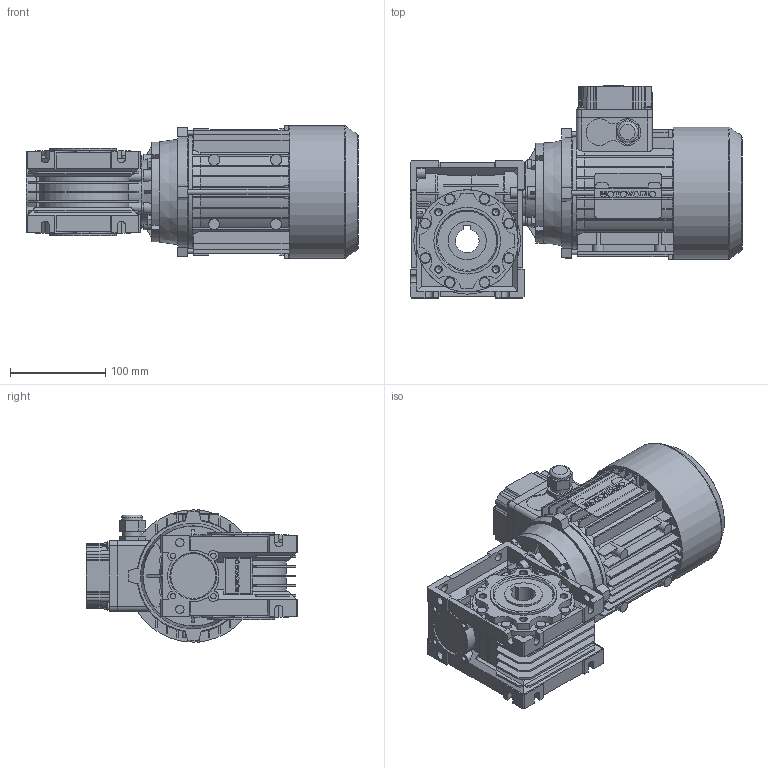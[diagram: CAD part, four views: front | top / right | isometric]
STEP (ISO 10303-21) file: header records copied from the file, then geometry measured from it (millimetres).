
FILE_DESCRIPTION(/* description */ ('STEP AP203'),/* implementation_level */ '2;1');
FILE_NAME(/* name */ 'NMRV0501332511100300T071-1(-----IC411NONO------STD)',/* time_stamp */ '2023-05-08T09:09:01+02:00',/* author */ ('License CC BY-ND 4.0'),/* organization */ ('CADENAS'),/* preprocessor_version */ 'ST-DEVELOPER v19.3',/* originating_system */ 'PARTsolutions',/* authorisation */ ' ');
FILE_SCHEMA (('CONFIG_CONTROL_DESIGN'));
Length unit declared in the file: millimetre
Products named in the file (11): NMRV0501332511100300T071-1(-----IC411NONO------STD); ALBERO_T07114X30NO; PRESSACAVO_2; COPRIMORSETTIERA_T071A002; COPRIVENTOLA_T_071_IC411_NO_-_-_-_-_STD; CARCASSA_T-071IC411B1414X30NONO--; FLANGIA_T071B14-; 50-71 B14; VB 050-14 (14); 050-25 (92)alc-n; Gear unit 50
Assembly tree (10 placements, depth 2):
  NMRV0501332511100300T071-1(-----IC411NONO------STD)
    ALBERO_T07114X30NO
    PRESSACAVO_2
    COPRIMORSETTIERA_T071A002
    COPRIVENTOLA_T_071_IC411_NO_-_-_-_-_STD
    CARCASSA_T-071IC411B1414X30NONO--
    FLANGIA_T071B14-
    50-71 B14
    VB 050-14 (14)
    050-25 (92)alc-n
    Gear unit 50
Bounding box: 348.5 x 222.5 x 139.37 mm (x, y, z)
Volume: 4091169.3 mm3; surface area: 502950.5 mm2
Topology: 10 solids, 15 shells, 2593 faces, 7152 edges, 4719 vertices
Faces by surface type: plane 1513, cylinder 952, cone 119, torus 5, sphere 4
Full cylindrical faces by diameter (mm): 1.8 x1, 2.02 x1, 3.775 x3, 4.134 x1, 5 x4, 5.3 x1, 5.5 x4, 5.55 x4, 6 x4, 6.647 x8, 8 x4, 8.8 x8, 10 x14, 11.5 x4, 14 x1, 15 x1, 16 x1, 20 x2, 22 x1, 28 x2, 34 x1, 40 x2, 47 x2, 55 x1, 70 x3, 107 x1, 113 x2, 118 x2, 138.9 x1
Entity records: 89361 total; most frequent: CARTESIAN_POINT 15514, DIRECTION 14206, ORIENTED_EDGE 13980, EDGE_CURVE 6990, AXIS2_PLACEMENT_3D 4981, VERTEX_POINT 4693, LINE 4244, VECTOR 4244
